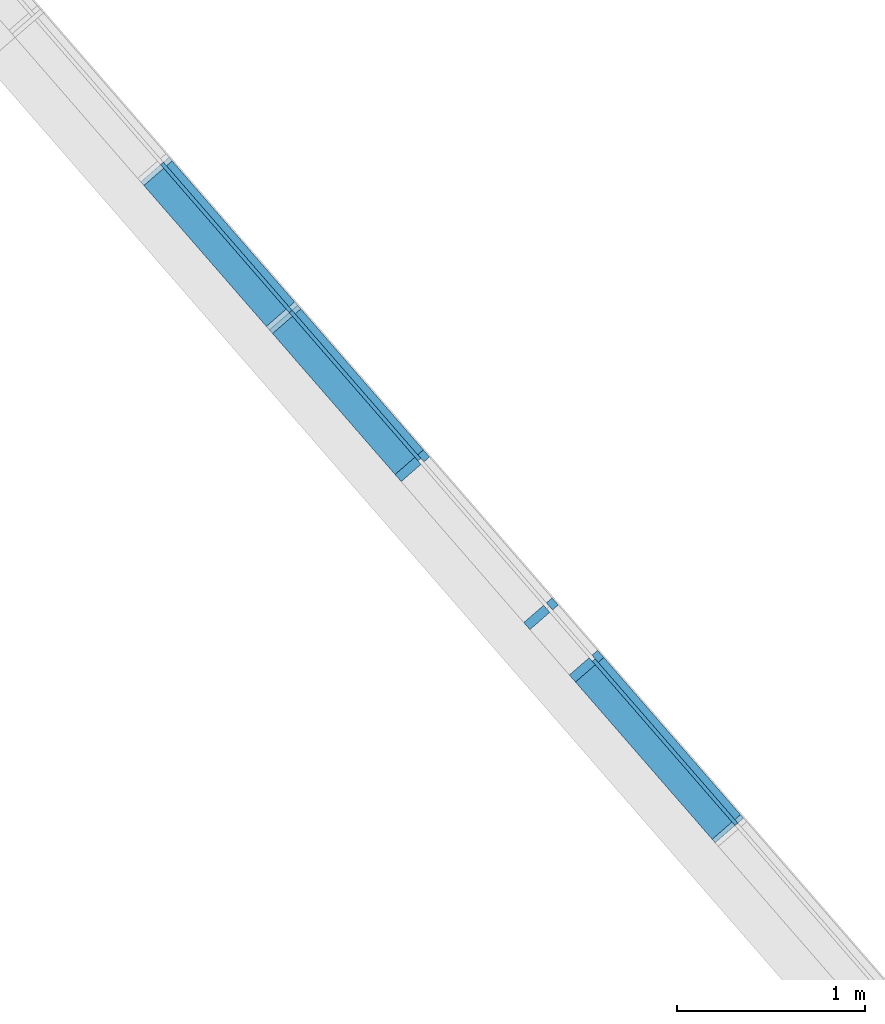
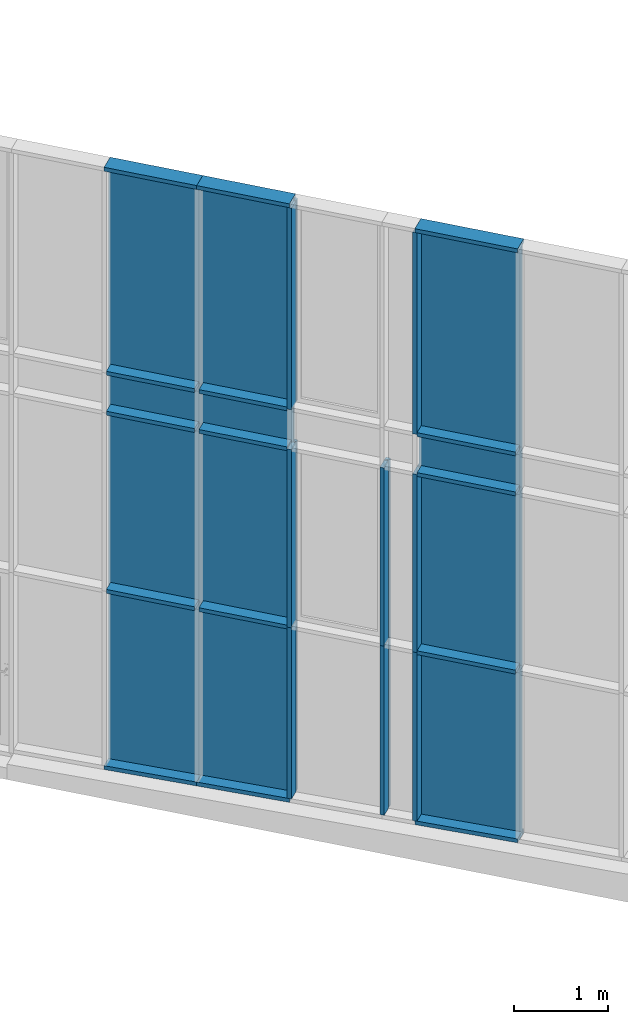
# One storey, part 51 of 390: 35 discrete accessories, 1 element without a shape of its own.
"""IFC2X3 building model written with IfcOpenShell, lengths in millimetres."""

import ifcopenshell
import ifcopenshell.guid

model = None  # the IFC model being written
_history = None  # IfcOwnerHistory: only IFC2X3 demands one
_inside = {}  # id of a spatial element -> (the spatial element, [elements in it])
_under = {}  # id of a project, library or spatial element -> (it, [spatial elements below it])
_declared = {}  # id of a project -> (the project, [libraries it declares])
_typed = {}  # id of a type object -> (the type object, [elements of that type])
_made_of = {}  # id of a material, layer set ... -> (it, [elements and type objects made of it])


def new_model(schema):
    """Start an empty IFC model of exactly this schema.

    Asked for "IFC4X3", IfcOpenShell would pick the latest addendum, in which some entities
    have other attributes; the version numbers below select the first issue.
    IFC2X3 requires an IfcOwnerHistory on every rooted entity: one is made here for all.
    """
    global model, _history
    if schema == "IFC4X3":
        model = ifcopenshell.file(schema_version=(4, 3, 0, 0))
    else:
        model = ifcopenshell.file(schema=schema)
    _inside.clear()
    _under.clear()
    _declared.clear()
    _typed.clear()
    _made_of.clear()
    _history = None
    if model.schema == "IFC2X3":
        org = make("IfcOrganization", Name="unknown")
        user = make(
            "IfcPersonAndOrganization",
            ThePerson=make("IfcPerson", FamilyName="unknown"),
            TheOrganization=org,
        )
        app = make(
            "IfcApplication",
            ApplicationDeveloper=org,
            Version="unknown",
            ApplicationFullName="unknown",
            ApplicationIdentifier="unknown",
        )
        _history = make(
            "IfcOwnerHistory",
            OwningUser=user,
            OwningApplication=app,
            ChangeAction="ADDED",
            CreationDate=0,
        )
    return model


def make(cls, **values):
    """One entity of the class cls with the attributes given. An attribute that is None is left unset."""
    return model.create_entity(
        cls, **{name: value for name, value in values.items() if value is not None}
    )


def entity(cls, *values):
    """Any entity or typed value of the class cls, its attributes in the order of the schema. None: left unset."""
    e = model.create_entity(cls)
    for i, value in enumerate(values):
        if value is not None:
            e[i] = value
    return e


def rooted(cls, **values):
    """An entity with a GlobalId (a new one), such as an element, a storey or a relation."""
    return make(cls, GlobalId=ifcopenshell.guid.new(), OwnerHistory=_history, **values)


def si_unit(unit_type, name, prefix=None):
    """IfcSIUnit, for example si_unit("LENGTHUNIT", "METRE", prefix="MILLI")."""
    return make("IfcSIUnit", UnitType=unit_type, Prefix=prefix, Name=name)


def converted_unit(unit_type, name, factor, base, dimensions=None, offset=None):
    """IfcConversionBasedUnit, such as the inch: factor (a typed value) times the base unit."""
    return make(
        "IfcConversionBasedUnit"
        if offset is None
        else "IfcConversionBasedUnitWithOffset",
        ConversionOffset=offset,
        Dimensions=None
        if dimensions is None
        else entity("IfcDimensionalExponents", *dimensions),
        UnitType=unit_type,
        Name=name,
        ConversionFactor=make(
            "IfcMeasureWithUnit", ValueComponent=factor, UnitComponent=base
        ),
    )


def derived_unit(unit_type, elements):
    """IfcDerivedUnit: a product of units, each with its exponent."""
    return make(
        "IfcDerivedUnit",
        Elements=[
            make("IfcDerivedUnitElement", Unit=unit, Exponent=power)
            for unit, power in elements
        ],
        UnitType=unit_type,
    )


def money_unit(currency):
    """IfcMonetaryUnit."""
    return make("IfcMonetaryUnit", Currency=currency)


def assignment(units):
    """IfcUnitAssignment: the units of a project."""
    return None if units is None else make("IfcUnitAssignment", Units=units)


def point(xyz):
    """IfcCartesianPoint."""
    return None if xyz is None else make("IfcCartesianPoint", Coordinates=xyz)


def direction(xyz):
    """IfcDirection."""
    return None if xyz is None else make("IfcDirection", DirectionRatios=xyz)


def frame(location, z_axis=None, x_axis=None):
    """IfcAxis2Placement3D, a coordinate frame: its origin and axes. An axis left out is left unset."""
    return make(
        "IfcAxis2Placement3D",
        Location=point(location),
        Axis=direction(z_axis),
        RefDirection=direction(x_axis),
    )


def origin_with_axes():
    """The frame at (0, 0, 0) with the z axis (0, 0, 1) and the x axis (1, 0, 0) written out."""
    return frame((0.0, 0.0, 0.0), z_axis=(0.0, 0.0, 1.0), x_axis=(1.0, 0.0, 0.0))


def place(relative_to, where):
    """IfcLocalPlacement: puts the frame where relative to a parent placement (None: the world)."""
    return make(
        "IfcLocalPlacement", PlacementRelTo=relative_to, RelativePlacement=where
    )


def context(
    kind, dimensions, precision=None, world=None, true_north=None, identifier=None
):
    """IfcGeometricRepresentationContext, for example the 3D "Model" context."""
    return make(
        "IfcGeometricRepresentationContext",
        ContextIdentifier=identifier,
        ContextType=kind,
        CoordinateSpaceDimension=dimensions,
        Precision=precision,
        WorldCoordinateSystem=world,
        TrueNorth=true_north,
    )


def subcontext(parent, identifier, kind, view, scale=None):
    """IfcGeometricRepresentationSubContext, for example "Body" below "Model"."""
    return make(
        "IfcGeometricRepresentationSubContext",
        ContextIdentifier=identifier,
        ContextType=kind,
        ParentContext=parent,
        TargetScale=scale,
        TargetView=view,
    )


def project(units=None, contexts=None):
    """IfcProject with its units and contexts."""
    return rooted(
        "IfcProject",
        Name="project",
        RepresentationContexts=contexts,
        UnitsInContext=assignment(units),
    )


def spatial(cls, under=None, at=None, **own):
    """A site, building, storey or space (cls), placed at a placement, below another one or the project."""
    s = rooted(cls, ObjectPlacement=at, **own)
    if under is not None:
        _under.setdefault(under.id(), (under, []))[1].append(s)
    return s


def polyline(points):
    """IfcPolyline through the points."""
    return make("IfcPolyline", Points=[point(p) for p in points])


def outline(outer, holes=None, kind="AREA"):
    """IfcArbitraryClosedProfileDef: a profile drawn as a closed curve; with holes, ...WithVoids."""
    if holes is None:
        return make("IfcArbitraryClosedProfileDef", ProfileType=kind, OuterCurve=outer)
    return make(
        "IfcArbitraryProfileDefWithVoids",
        ProfileType=kind,
        OuterCurve=outer,
        InnerCurves=holes,
    )


def extrude(swept, where, along, depth):
    """IfcExtrudedAreaSolid: the profile swept, set in the frame where, extruded along a direction by depth."""
    return make(
        "IfcExtrudedAreaSolid",
        SweptArea=swept,
        Position=where,
        ExtrudedDirection=direction(along),
        Depth=depth,
    )


def clip(a, b, op="DIFFERENCE"):
    """IfcBooleanClippingResult: the solid a cut by the half space b."""
    return make(
        "IfcBooleanClippingResult", Operator=op, FirstOperand=a, SecondOperand=b
    )


def halfspace(plane, agree):
    """IfcHalfSpaceSolid: all space on one side of the plane z = 0 of the frame plane."""
    return make(
        "IfcHalfSpaceSolid",
        BaseSurface=make("IfcPlane", Position=plane),
        AgreementFlag=agree,
    )


def shape(context_of_items, identifier, shape_type, items):
    """IfcShapeRepresentation: the items that make up one representation, for example the "Body"."""
    return make(
        "IfcShapeRepresentation",
        ContextOfItems=context_of_items,
        RepresentationIdentifier=identifier,
        RepresentationType=shape_type,
        Items=items,
    )


def material(Name=None, Category=None):
    """IfcMaterial."""
    return make("IfcMaterial", Name=Name, Category=Category)


def material_list(materials):
    """IfcMaterialList."""
    return make("IfcMaterialList", Materials=materials)


def made_of(thing, what):
    """Note that an element or type object is made of a material, layer set ...; save() writes the relation."""
    if what is not None:
        _made_of.setdefault(what.id(), (what, []))[1].append(thing)
    return thing


def type_object(cls, material=None, **own):
    """A type object (cls), such as IfcWallType, which elements share."""
    return made_of(rooted(cls, **own), material)


def element(
    cls,
    number,
    at=None,
    inside=None,
    cuts=None,
    type_object=None,
    material=None,
    context=None,
    identifier="Body",
    shape_type=None,
    held_by="IfcProductDefinitionShape",
    body=None,
    shapes=None,
    **own,
):
    """One element of the class cls, such as IfcWall. Its Tag is "e" and its number.

    at: its placement. inside: the storey or other place that contains it. cuts: it is an
    opening in that element (IfcRelVoidsElement). A single representation is given by context,
    identifier, shape_type and body (its items); several are given by shapes. held_by: the class
    of the entity that holds the representations. save() writes the other relations.
    """
    e = rooted(cls, Tag="e%d" % number, ObjectPlacement=at, **own)
    if body is not None:
        shapes = [shape(context, identifier, shape_type, body)]
    if shapes is not None:
        e.Representation = make(held_by, Representations=shapes)
    if inside is not None:
        _inside.setdefault(inside.id(), (inside, []))[1].append(e)
    if cuts is not None:
        rooted(
            "IfcRelVoidsElement", RelatingBuildingElement=cuts, RelatedOpeningElement=e
        )
    if type_object is not None:
        _typed.setdefault(type_object.id(), (type_object, []))[1].append(e)
    return made_of(e, material)


def aggregate(whole, parts):
    """IfcRelAggregates: a whole, such as a stair, and the parts it consists of."""
    return rooted("IfcRelAggregates", RelatingObject=whole, RelatedObjects=parts)


def save(model, path):
    """Write the relations noted so far, then the file.

    IfcRelAggregates (storeys below a building ...), IfcRelContainedInSpatialStructure (elements
    in a storey), IfcRelDefinesByType, IfcRelAssociatesMaterial and IfcRelDeclares: one each for
    every whole, place, type object, material and project.
    """
    for whole, parts in _under.values():
        aggregate(whole, parts)
    for where, things in _inside.values():
        rooted(
            "IfcRelContainedInSpatialStructure",
            RelatedElements=things,
            RelatingStructure=where,
        )
    for kind, things in _typed.values():
        rooted("IfcRelDefinesByType", RelatedObjects=things, RelatingType=kind)
    for what, things in _made_of.values():
        rooted("IfcRelAssociatesMaterial", RelatedObjects=things, RelatingMaterial=what)
    for by, libraries in _declared.values():
        rooted("IfcRelDeclares", RelatingContext=by, RelatedDefinitions=libraries)
    model.write(path)


model = new_model("IFC2X3")

# Units and contexts
model_context = context("Model", 3, precision=1e-05, world=origin_with_axes(), true_north=direction((0.0, 1.0)))
body_context = subcontext(model_context, "Body", "Model", "MODEL_VIEW")
ifc_project = project(units=[si_unit("LENGTHUNIT", "METRE", prefix="MILLI"), si_unit("AREAUNIT", "SQUARE_METRE"), si_unit("VOLUMEUNIT", "CUBIC_METRE"), converted_unit("PLANEANGLEUNIT", "DEGREE", entity("IfcPlaneAngleMeasure", 0.0174532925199), si_unit("PLANEANGLEUNIT", "RADIAN"), dimensions=[0, 0, 0, 0, 0, 0, 0]), si_unit("SOLIDANGLEUNIT", "STERADIAN"), money_unit("EUR"), converted_unit("TIMEUNIT", "Year", entity("IfcTimeMeasure", 31556926.0), si_unit("TIMEUNIT", "SECOND"), dimensions=[0, 0, 1, 0, 0, 0, 0]), si_unit("MASSUNIT", "GRAM", prefix="KILO"), si_unit("THERMODYNAMICTEMPERATUREUNIT", "DEGREE_CELSIUS"), si_unit("LUMINOUSINTENSITYUNIT", "LUMEN"), si_unit("ENERGYUNIT", "JOULE", prefix="MEGA"), derived_unit("THERMALCONDUCTANCEUNIT", [(si_unit("POWERUNIT", "WATT"), 1), (si_unit("LENGTHUNIT", "METRE"), -1), (si_unit("THERMODYNAMICTEMPERATUREUNIT", "KELVIN"), -1)]), derived_unit("SPECIFICHEATCAPACITYUNIT", [(si_unit("ENERGYUNIT", "JOULE"), 1), (si_unit("MASSUNIT", "GRAM", prefix="KILO"), -1), (si_unit("THERMODYNAMICTEMPERATUREUNIT", "KELVIN"), -1)]), derived_unit("MASSDENSITYUNIT", [(si_unit("MASSUNIT", "GRAM", prefix="KILO"), 1), (si_unit("VOLUMEUNIT", "CUBIC_METRE"), -1)])], contexts=[model_context])

# Site, building, storey
site_placement = place(None, origin_with_axes())
site = spatial("IfcSite", under=ifc_project, at=site_placement, Name="Site", CompositionType="ELEMENT")
building_placement = place(site_placement, origin_with_axes())
building = spatial("IfcBuilding", under=site, at=building_placement, Name="Building", CompositionType="ELEMENT")
storey_placement = place(building_placement, origin_with_axes())
storey = spatial("IfcBuildingStorey", under=building, at=storey_placement, Name="1 korrus", CompositionType="ELEMENT", Elevation=0.0)

# Curtain wall, discrete accessories
curtain_wall_type = type_object("IfcCurtainWallType", Name="KLF-17", PredefinedType="NOTDEFINED")
curtain_wall_placement = place(storey_placement, frame((175630.823927, 104534.758561, -0.000216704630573), z_axis=(0.0, 0.0, 1.0), x_axis=(1.0, 0.0, 0.0)))
curtain_wall = element("IfcCurtainWall", 1, at=curtain_wall_placement, inside=storey, type_object=curtain_wall_type, Name="Klaasfassaad")
ifc_material_1 = material(Name="Klaas")
discrete_accessory_type_1 = type_object("IfcDiscreteAccessoryType", Name="1045 x 2655 x 20")
discrete_accessory_1_placement = place(curtain_wall_placement, frame((-5817.60343956, 6692.38720263, 6577.50341211), z_axis=(0.0, 0.0, 1.0), x_axis=(-0.65605902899, 0.754709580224, 0.0)))
discrete_accessory_1 = element("IfcDiscreteAccessory", 2, at=discrete_accessory_1_placement, type_object=discrete_accessory_type_1, material=ifc_material_1, Name="KLF-17 klaaspakett", context=body_context, shape_type="SweptSolid", body=[
    extrude(outline(polyline([(-522.499998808, -1317.50318898), (522.499988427, -1317.50318898), (522.499988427, 1337.50319541), (-522.499998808, 1337.50319541), (-522.499998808, -1317.50318898)])), frame((0.0, -10.0, 0.0), z_axis=(0.0, 1.0, 0.0), x_axis=(1.0, 0.0, 0.0)), (0.0, 0.0, 1.0), 20.0),
])
discrete_accessory_2_placement = place(curtain_wall_placement, frame((-6503.18512486, 7481.05871397, 6577.50341211), z_axis=(0.0, 0.0, 1.0), x_axis=(-0.65605902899, 0.754709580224, 0.0)))
discrete_accessory_2 = element("IfcDiscreteAccessory", 3, at=discrete_accessory_2_placement, type_object=discrete_accessory_type_1, material=ifc_material_1, Name="KLF-17 klaaspakett", context=body_context, shape_type="SweptSolid", body=[
    extrude(outline(polyline([(-522.499998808, -1317.50318898), (522.499988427, -1317.50318898), (522.499988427, 1337.50319541), (-522.499998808, 1337.50319541), (-522.499998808, -1317.50318898)])), frame((0.0, -9.99999999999, 0.0), z_axis=(0.0, 1.0, 0.0), x_axis=(1.0, 0.0, 0.0)), (0.0, 0.0, 1.0), 20.0),
])
discrete_accessory_type_2 = type_object("IfcDiscreteAccessoryType", Name="1160 x 2655 x 20")
discrete_accessory_3_placement = place(curtain_wall_placement, frame((-4165.97483408, 4792.40583442, 6577.50341211), z_axis=(0.0, 0.0, 1.0), x_axis=(-0.65605902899, 0.754709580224, 0.0)))
discrete_accessory_3 = element("IfcDiscreteAccessory", 4, at=discrete_accessory_3_placement, type_object=discrete_accessory_type_2, material=ifc_material_1, Name="KLF-17 klaaspakett", context=body_context, shape_type="SweptSolid", body=[
    extrude(outline(polyline([(-580.000025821, -1317.50318898), (579.999988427, -1317.50318898), (579.999988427, 1337.50319541), (-579.99998596, 1337.50319541), (-580.000025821, -1317.50318898)])), frame((0.0, -9.99999999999, 0.0), z_axis=(0.0, 1.0, 0.0), x_axis=(1.0, 0.0, 0.0)), (0.0, 0.0, 1.0), 20.0),
])
discrete_accessory_type_3 = type_object("IfcDiscreteAccessoryType", Name="1160 x 2223 x 20")
discrete_accessory_4_placement = place(curtain_wall_placement, frame((-4165.97483408, 4792.40583442, 1285.15446625), z_axis=(0.0, 0.0, 1.0), x_axis=(-0.65605902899, 0.754709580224, 0.0)))
discrete_accessory_4 = element("IfcDiscreteAccessory", 5, at=discrete_accessory_4_placement, type_object=discrete_accessory_type_3, material=ifc_material_1, Name="KLF-17 klaaspakett", context=body_context, shape_type="SweptSolid", body=[
    extrude(outline(polyline([(-580.000009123, -1114.84575822), (580.000003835, -1114.84575822), (580.000003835, 1108.37641408), (-580.000009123, 1081.30413569), (-580.000009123, -1114.84575822)])), frame((0.0, -10.0, 0.0), z_axis=(0.0, 1.0, 0.0), x_axis=(1.0, 0.0, 0.0)), (0.0, 0.0, 1.0), 20.0),
])
discrete_accessory_type_4 = type_object("IfcDiscreteAccessoryType", Name="1045 x 2281 x 20")
discrete_accessory_5_placement = place(curtain_wall_placement, frame((-5817.60343956, 6692.38720263, 1255.77747598), z_axis=(0.0, 0.0, 1.0), x_axis=(-0.65605902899, 0.754709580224, 0.0)))
discrete_accessory_5 = element("IfcDiscreteAccessory", 6, at=discrete_accessory_5_placement, type_object=discrete_accessory_type_4, material=ifc_material_1, Name="KLF-17 klaaspakett", context=body_context, shape_type="SweptSolid", body=[
    extrude(outline(polyline([(-522.500013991, -1144.22274073), (522.499990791, -1144.22274073), (522.499990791, 1136.41152948), (-522.499979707, 1112.02304098), (-522.500013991, -1144.22274073)])), frame((0.0, -9.99999999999, 0.0), z_axis=(0.0, 1.0, 0.0), x_axis=(1.0, 0.0, 0.0)), (0.0, 0.0, 1.0), 20.0),
])
discrete_accessory_type_5 = type_object("IfcDiscreteAccessoryType", Name="1045 x 2305 x 20")
discrete_accessory_6_placement = place(curtain_wall_placement, frame((-6503.18512486, 7481.05871397, 1243.58322229), z_axis=(0.0, 0.0, 1.0), x_axis=(-0.65605902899, 0.754709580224, 0.0)))
discrete_accessory_6 = element("IfcDiscreteAccessory", 7, at=discrete_accessory_6_placement, type_object=discrete_accessory_type_5, material=ifc_material_1, Name="KLF-17 klaaspakett", context=body_context, shape_type="SweptSolid", body=[
    extrude(outline(polyline([(-522.500005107, -1156.41699441), (522.500000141, -1156.41699441), (522.500000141, 1148.60580802), (-522.500005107, 1124.21730055), (-522.500005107, -1156.41699441)])), frame((0.0, -9.99999999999, 0.0), z_axis=(0.0, 1.0, 0.0), x_axis=(1.0, 0.0, 0.0)), (0.0, 0.0, 1.0), 20.0),
])
discrete_accessory_type_6 = type_object("IfcDiscreteAccessoryType", Name="1160 x 2320 x 20")
discrete_accessory_7_placement = place(curtain_wall_placement, frame((-4165.97483408, 4792.40583442, 3560.0002167), z_axis=(0.0, 0.0, 1.0), x_axis=(-0.65605902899, 0.754709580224, 0.0)))
discrete_accessory_7 = element("IfcDiscreteAccessory", 8, at=discrete_accessory_7_placement, type_object=discrete_accessory_type_6, material=ifc_material_1, Name="KLF-17 klaaspakett", context=body_context, shape_type="SweptSolid", body=[
    extrude(outline(polyline([(-579.999998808, -1160.0), (580.000001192, -1160.0), (580.000001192, 1160.0), (-579.999998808, 1160.0), (-579.999998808, -1160.0)])), frame((0.0, -10.0, 0.0), z_axis=(0.0, 1.0, 0.0), x_axis=(1.0, 0.0, 0.0)), (0.0, 0.0, 1.0), 20.0),
])
discrete_accessory_type_7 = type_object("IfcDiscreteAccessoryType", Name="1045 x 2320 x 20")
discrete_accessory_8_placement = place(curtain_wall_placement, frame((-6503.18512486, 7481.05871397, 3560.0002167), z_axis=(0.0, 0.0, 1.0), x_axis=(-0.65605902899, 0.754709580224, 0.0)))
discrete_accessory_8 = element("IfcDiscreteAccessory", 9, at=discrete_accessory_8_placement, type_object=discrete_accessory_type_7, material=ifc_material_1, Name="KLF-17 klaaspakett", context=body_context, shape_type="SweptSolid", body=[
    extrude(outline(polyline([(-522.499991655, -1160.0), (522.500001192, -1160.0), (522.500001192, 1160.0), (-522.499991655, 1160.0), (-522.499991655, -1160.0)])), frame((0.0, -9.99999999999, 0.0), z_axis=(0.0, 1.0, 0.0), x_axis=(1.0, 0.0, 0.0)), (0.0, 0.0, 1.0), 20.0),
])
discrete_accessory_9_placement = place(curtain_wall_placement, frame((-5817.60343956, 6692.38720263, 3560.0002167), z_axis=(0.0, 0.0, 1.0), x_axis=(-0.65605902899, 0.754709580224, 0.0)))
discrete_accessory_9 = element("IfcDiscreteAccessory", 10, at=discrete_accessory_9_placement, type_object=discrete_accessory_type_7, material=ifc_material_1, Name="KLF-17 klaaspakett", context=body_context, shape_type="SweptSolid", body=[
    extrude(outline(polyline([(-522.499991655, -1160.0), (522.500001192, -1160.0), (522.500001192, 1160.0), (-522.499991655, 1160.0), (-522.499991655, -1160.0)])), frame((0.0, -9.99999999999, 0.0), z_axis=(0.0, 1.0, 0.0), x_axis=(1.0, 0.0, 0.0)), (0.0, 0.0, 1.0), 20.0),
])
discrete_accessory_type_8 = type_object("IfcDiscreteAccessoryType", Name="1160 x 520 x 20")
discrete_accessory_10_placement = place(curtain_wall_placement, frame((-4165.97483408, 4792.40583442, 4980.0002167), z_axis=(0.0, 0.0, 1.0), x_axis=(-0.65605902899, 0.754709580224, 0.0)))
discrete_accessory_10 = element("IfcDiscreteAccessory", 11, at=discrete_accessory_10_placement, type_object=discrete_accessory_type_8, material=ifc_material_1, Name="KLF-17 klaaspakett", context=body_context, shape_type="SweptSolid", body=[
    extrude(outline(polyline([(-580.0, -260.000007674), (579.999993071, -259.999990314), (579.999993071, 260.000001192), (-580.0, 260.000001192), (-580.0, -260.000007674)])), frame((0.0, -9.99999999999, 0.0), z_axis=(0.0, 1.0, 0.0), x_axis=(1.0, 0.0, 0.0)), (0.0, 0.0, 1.0), 20.0),
])
discrete_accessory_type_9 = type_object("IfcDiscreteAccessoryType", Name="1045 x 520 x 20")
discrete_accessory_11_placement = place(curtain_wall_placement, frame((-5817.60343956, 6692.38720263, 4980.0002167), z_axis=(0.0, 0.0, 1.0), x_axis=(-0.65605902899, 0.754709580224, 0.0)))
discrete_accessory_11 = element("IfcDiscreteAccessory", 12, at=discrete_accessory_11_placement, type_object=discrete_accessory_type_9, material=ifc_material_1, Name="KLF-17 klaaspakett", context=body_context, shape_type="SweptSolid", body=[
    extrude(outline(polyline([(-522.5, -259.99999553), (522.49999553, -259.99999553), (522.49999553, 260.0), (-522.5, 260.0), (-522.5, -259.99999553)])), frame((0.0, -9.99999999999, 0.0), z_axis=(0.0, 1.0, 0.0), x_axis=(1.0, 0.0, 0.0)), (0.0, 0.0, 1.0), 20.0),
])
discrete_accessory_12_placement = place(curtain_wall_placement, frame((-6503.18512486, 7481.05871397, 4980.0002167), z_axis=(0.0, 0.0, 1.0), x_axis=(-0.65605902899, 0.754709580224, 0.0)))
discrete_accessory_12 = element("IfcDiscreteAccessory", 13, at=discrete_accessory_12_placement, type_object=discrete_accessory_type_9, material=ifc_material_1, Name="KLF-17 klaaspakett", context=body_context, shape_type="SweptSolid", body=[
    extrude(outline(polyline([(-522.5, -259.99999553), (522.49999553, -259.99999553), (522.49999553, 260.0), (-522.5, 260.0), (-522.5, -259.99999553)])), frame((0.0, -9.99999999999, 0.0), z_axis=(0.0, 1.0, 0.0), x_axis=(1.0, 0.0, 0.0)), (0.0, 0.0, 1.0), 20.0),
])
ifc_material_2 = material(Name="Aluminium MUST")
ifc_material_list = material_list([ifc_material_2, ifc_material_2])
discrete_accessory_type_10 = type_object("IfcDiscreteAccessoryType", Name="50 x 200")
discrete_accessory_13_placement = place(curtain_wall_placement, frame((-5474.81259692, 6298.05144697, 5240.0002167), z_axis=(0.0, 0.0, 1.0), x_axis=(-0.65605902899, 0.754709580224, 0.0)))
discrete_accessory_13 = element("IfcDiscreteAccessory", 14, at=discrete_accessory_13_placement, type_object=discrete_accessory_type_10, material=ifc_material_list, Name="KLF-17 profiil", context=body_context, shape_type="SweptSolid", body=[
    extrude(outline(polyline([(-129.607912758, -79.5411148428), (-96.8049613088, -117.276593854), (8.8543799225, -25.4283297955), (-23.948571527, 12.3071492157), (-129.607912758, -79.5411148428)])), frame((0.0, 0.0, 0.0), z_axis=(0.0, 0.0, 1.0), x_axis=(-0.65605902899, -0.754709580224, 0.0)), (0.0, 0.0, 1.0), 2625.00639082),
    extrude(outline(polyline([(54.1369547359, 13.9352119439), (21.3340032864, 51.6706909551), (-8.8543799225, 25.4283297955), (23.948571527, -12.3071492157), (54.1369547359, 13.9352119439)])), frame((0.0, 0.0, 0.0), z_axis=(0.0, 0.0, 1.0), x_axis=(-0.65605902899, -0.754709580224, 0.0)), (0.0, 0.0, 1.0), 2625.00639082),
])
discrete_accessory_14_placement = place(curtain_wall_placement, frame((-4546.4890709, 5230.13739095, 7915.00660752), z_axis=(0.65605902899, -0.754709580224, 0.0), x_axis=(0.0, 0.0, 1.0)))
discrete_accessory_14 = element("IfcDiscreteAccessory", 15, at=discrete_accessory_14_placement, type_object=discrete_accessory_type_10, Name="KLF-17 profiil", context=body_context, shape_type="SweptSolid", body=[
    extrude(outline(polyline([(9.99999999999, 25.0), (-9.99999999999, 25.0), (-9.99999999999, 0.0), (9.99999999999, 0.0), (9.99999999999, 25.0)])), frame((0.0, 0.0, 0.0), z_axis=(0.0, 0.0, 1.0), x_axis=(0.0, 1.0, 0.0)), (0.0, 0.0, 1.0), 1160.0),
    extrude(outline(polyline([(150.0, 50.0), (9.99999999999, 50.0), (9.99999999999, 0.0), (150.0, 0.0), (150.0, 50.0)])), frame((0.0, 0.0, 0.0), z_axis=(0.0, 0.0, 1.0), x_axis=(0.0, 1.0, 0.0)), (0.0, 0.0, 1.0), 1160.0),
    extrude(outline(polyline([(-50.0, 0.0), (-9.99999999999, 0.0), (-9.99999999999, 50.0), (-50.0, 50.0), (-50.0, 0.0)])), frame((0.0, 0.0, 0.0), z_axis=(0.0, 0.0, 1.0), x_axis=(0.0, 1.0, 0.0)), (0.0, 0.0, 1.0), 1160.0),
])
discrete_accessory_15_placement = place(curtain_wall_placement, frame((-6160.39428221, 7086.7229583, 7915.00660752), z_axis=(0.65605902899, -0.754709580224, 0.0), x_axis=(0.0, 0.0, 1.0)))
discrete_accessory_15 = element("IfcDiscreteAccessory", 16, at=discrete_accessory_15_placement, type_object=discrete_accessory_type_10, Name="KLF-17 profiil", context=body_context, shape_type="SweptSolid", body=[
    extrude(outline(polyline([(10.0, 25.0), (-9.99999999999, 25.0), (-9.99999999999, 0.0), (10.0, 0.0), (10.0, 25.0)])), frame((0.0, 0.0, 0.0), z_axis=(0.0, 0.0, 1.0), x_axis=(0.0, 1.0, 0.0)), (0.0, 0.0, 1.0), 1045.0),
    extrude(outline(polyline([(150.0, 50.0), (10.0, 50.0), (10.0, 0.0), (150.0, 0.0), (150.0, 50.0)])), frame((0.0, 0.0, 0.0), z_axis=(0.0, 0.0, 1.0), x_axis=(0.0, 1.0, 0.0)), (0.0, 0.0, 1.0), 1045.0),
    extrude(outline(polyline([(-50.0, 0.0), (-9.99999999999, 0.0), (-9.99999999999, 50.0), (-50.0, 50.0), (-50.0, 0.0)])), frame((0.0, 0.0, 0.0), z_axis=(0.0, 0.0, 1.0), x_axis=(0.0, 1.0, 0.0)), (0.0, 0.0, 1.0), 1045.0),
])
discrete_accessory_16_placement = place(curtain_wall_placement, frame((-6845.97596751, 7875.39446963, 7915.00660752), z_axis=(0.65605902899, -0.754709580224, 0.0), x_axis=(0.0, 0.0, 1.0)))
discrete_accessory_16 = element("IfcDiscreteAccessory", 17, at=discrete_accessory_16_placement, type_object=discrete_accessory_type_10, Name="KLF-17 profiil", context=body_context, shape_type="SweptSolid", body=[
    extrude(outline(polyline([(10.0, 25.0), (-9.99999999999, 25.0), (-9.99999999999, 0.0), (10.0, 0.0), (10.0, 25.0)])), frame((0.0, 0.0, 0.0), z_axis=(0.0, 0.0, 1.0), x_axis=(0.0, 1.0, 0.0)), (0.0, 0.0, 1.0), 1045.0),
    extrude(outline(polyline([(150.0, 50.0), (10.0, 50.0), (10.0, 0.0), (150.0, 0.0), (150.0, 50.0)])), frame((0.0, 0.0, 0.0), z_axis=(0.0, 0.0, 1.0), x_axis=(0.0, 1.0, 0.0)), (0.0, 0.0, 1.0), 1045.0),
    extrude(outline(polyline([(-50.0, 0.0), (-9.99999999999, 0.0), (-9.99999999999, 50.0), (-50.0, 50.0), (-50.0, 0.0)])), frame((0.0, 0.0, 0.0), z_axis=(0.0, 0.0, 1.0), x_axis=(0.0, 1.0, 0.0)), (0.0, 0.0, 1.0), 1045.0),
])
discrete_accessory_17_placement = place(curtain_wall_placement, frame((-4546.4890709, 5230.13739095, 5240.0002167), z_axis=(0.65605902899, -0.754709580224, 0.0), x_axis=(0.0, 0.0, 1.0)))
discrete_accessory_17 = element("IfcDiscreteAccessory", 18, at=discrete_accessory_17_placement, type_object=discrete_accessory_type_10, material=ifc_material_list, Name="KLF-17 profiil", context=body_context, shape_type="SweptSolid", body=[
    extrude(outline(polyline([(150.0, -25.0), (150.0, 25.0), (9.99999999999, 25.0), (9.99999999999, -25.0), (150.0, -25.0)])), frame((0.0, 0.0, 25.0), z_axis=(0.0, 0.0, 1.0), x_axis=(0.0, 1.0, 0.0)), (0.0, 0.0, 1.0), 1110.0),
    extrude(outline(polyline([(-50.0, 25.0), (-50.0, -25.0), (-9.99999999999, -25.0), (-9.99999999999, 25.0), (-50.0, 25.0)])), frame((0.0, 0.0, 25.0), z_axis=(0.0, 0.0, 1.0), x_axis=(0.0, 1.0, 0.0)), (0.0, 0.0, 1.0), 1110.0),
])
discrete_accessory_18_placement = place(curtain_wall_placement, frame((-6160.39428221, 7086.7229583, 5240.0002167), z_axis=(0.65605902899, -0.754709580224, 0.0), x_axis=(0.0, 0.0, 1.0)))
discrete_accessory_18 = element("IfcDiscreteAccessory", 19, at=discrete_accessory_18_placement, type_object=discrete_accessory_type_10, material=ifc_material_list, Name="KLF-17 profiil", context=body_context, shape_type="SweptSolid", body=[
    extrude(outline(polyline([(150.0, -25.0), (150.0, 25.0), (9.99999999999, 25.0), (9.99999999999, -25.0), (150.0, -25.0)])), frame((0.0, 0.0, 25.0), z_axis=(0.0, 0.0, 1.0), x_axis=(0.0, 1.0, 0.0)), (0.0, 0.0, 1.0), 995.0),
    extrude(outline(polyline([(-49.9999999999, 25.0), (-49.9999999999, -25.0), (-9.99999999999, -25.0), (-9.99999999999, 25.0), (-49.9999999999, 25.0)])), frame((0.0, 0.0, 25.0), z_axis=(0.0, 0.0, 1.0), x_axis=(0.0, 1.0, 0.0)), (0.0, 0.0, 1.0), 995.0),
])
discrete_accessory_19_placement = place(curtain_wall_placement, frame((-6845.97596751, 7875.39446963, 5240.0002167), z_axis=(0.65605902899, -0.754709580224, 0.0), x_axis=(0.0, 0.0, 1.0)))
discrete_accessory_19 = element("IfcDiscreteAccessory", 20, at=discrete_accessory_19_placement, type_object=discrete_accessory_type_10, material=ifc_material_list, Name="KLF-17 profiil", context=body_context, shape_type="SweptSolid", body=[
    extrude(outline(polyline([(150.0, -25.0), (150.0, 25.0), (10.0, 25.0), (10.0, -25.0), (150.0, -25.0)])), frame((0.0, 0.0, 25.0), z_axis=(0.0, 0.0, 1.0), x_axis=(0.0, 1.0, 0.0)), (0.0, 0.0, 1.0), 995.0),
    extrude(outline(polyline([(-50.0, 25.0), (-50.0, -25.0), (-9.99999999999, -25.0), (-9.99999999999, 25.0), (-50.0, 25.0)])), frame((0.0, 0.0, 25.0), z_axis=(0.0, 0.0, 1.0), x_axis=(0.0, 1.0, 0.0)), (0.0, 0.0, 1.0), 995.0),
])
discrete_accessory_20_placement = place(curtain_wall_placement, frame((-4546.4890709, 5230.13739095, 5240.0002167), z_axis=(0.0, 0.0, 1.0), x_axis=(-0.65605902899, 0.754709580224, 0.0)))
discrete_accessory_20 = element("IfcDiscreteAccessory", 21, at=discrete_accessory_20_placement, type_object=discrete_accessory_type_10, material=ifc_material_list, Name="KLF-17 profiil", context=body_context, shape_type="SweptSolid", body=[
    extrude(outline(polyline([(-129.607912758, -79.5411148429), (-96.8049613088, -117.276593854), (8.85437992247, -25.4283297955), (-23.948571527, 12.3071492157), (-129.607912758, -79.5411148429)])), frame((0.0, 0.0, 0.0), z_axis=(0.0, 0.0, 1.0), x_axis=(-0.65605902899, -0.754709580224, 0.0)), (0.0, 0.0, 1.0), 2625.00639082),
    extrude(outline(polyline([(54.1369547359, 13.9352119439), (21.3340032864, 51.6706909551), (-8.85437992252, 25.4283297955), (23.948571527, -12.3071492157), (54.1369547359, 13.9352119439)])), frame((0.0, 0.0, 0.0), z_axis=(0.0, 0.0, 1.0), x_axis=(-0.65605902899, -0.754709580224, 0.0)), (0.0, 0.0, 1.0), 2625.00639082),
])
discrete_accessory_21_placement = place(curtain_wall_placement, frame((-4546.4890709, 5230.13739095, 156.772577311), z_axis=(0.655880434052, -0.754504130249, 0.0233318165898), x_axis=(-0.0153070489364, 0.0176087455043, 0.999727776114)))
discrete_accessory_21 = element("IfcDiscreteAccessory", 22, at=discrete_accessory_21_placement, type_object=discrete_accessory_type_10, Name="KLF-17 profiil", context=body_context, shape_type="SweptSolid", body=[
    extrude(outline(polyline([(9.99999999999, -25.0), (9.99999999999, 0.0), (-9.99999999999, 0.0), (-9.99999999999, -25.0), (9.99999999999, -25.0)])), frame((0.0, 0.0, -1.44142973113e-05), z_axis=(0.0, 0.0, 1.0), x_axis=(0.0, 1.0, 0.0)), (0.0, 0.0, 1.0), 1160.31588391),
    extrude(outline(polyline([(150.0, -50.0), (150.0, 0.0), (9.99999999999, 0.0), (9.99999999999, -50.0), (150.0, -50.0)])), frame((0.0, 0.0, -1.44142973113e-05), z_axis=(0.0, 0.0, 1.0), x_axis=(0.0, 1.0, 0.0)), (0.0, 0.0, 1.0), 1160.31588391),
    extrude(outline(polyline([(-50.0, 0.0), (-50.0, -50.0), (-10.0, -50.0), (-9.99999999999, 0.0), (-50.0, 0.0)])), frame((0.0, 0.0, -1.44142973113e-05), z_axis=(0.0, 0.0, 1.0), x_axis=(0.0, 1.0, 0.0)), (0.0, 0.0, 1.0), 1160.31588391),
])
discrete_accessory_22_placement = place(curtain_wall_placement, frame((-5474.81259692, 6298.05144697, 123.74898893), z_axis=(0.0, 0.0, 1.0), x_axis=(-0.65605902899, 0.754709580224, 0.0)))
discrete_accessory_22 = element("IfcDiscreteAccessory", 23, at=discrete_accessory_22_placement, type_object=discrete_accessory_type_10, material=ifc_material_list, Name="KLF-17 profiil", context=body_context, shape_type="Clipping", body=[
    clip(extrude(outline(polyline([(-129.607912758, -79.5411148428), (-96.8049613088, -117.276593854), (8.8543799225, -25.4283297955), (-23.948571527, 12.3071492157), (-129.607912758, -79.5411148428)])), frame((0.0, 0.0, 49.4301579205), z_axis=(0.0, 0.0, 1.0), x_axis=(-0.65605902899, -0.754709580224, 0.0)), (0.0, 0.0, 1.0), 2226.82106985), halfspace(frame((1.16659656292, 0.0, 49.9863886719), z_axis=(0.0233319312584, 0.0, 0.999727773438), x_axis=(0.0, -1.0, 0.0)), True)),
    clip(extrude(outline(polyline([(54.1369547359, 13.9352119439), (21.3340032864, 51.6706909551), (-8.8543799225, 25.4283297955), (23.948571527, -12.3071492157), (54.1369547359, 13.9352119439)])), frame((0.0, 0.0, 49.4301579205), z_axis=(0.0, 0.0, 1.0), x_axis=(-0.65605902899, -0.754709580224, 0.0)), (0.0, 0.0, 1.0), 2226.82106985), halfspace(frame((1.16659656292, 0.0, 49.9863886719), z_axis=(0.0233319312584, 0.0, 0.999727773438), x_axis=(0.0, -1.0, 0.0)), True)),
])
discrete_accessory_23_placement = place(curtain_wall_placement, frame((-4789.23091162, 5509.37993563, 148.137241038), z_axis=(0.0, 0.0, 1.0), x_axis=(-0.65605902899, 0.754709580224, 0.0)))
discrete_accessory_23 = element("IfcDiscreteAccessory", 24, at=discrete_accessory_23_placement, type_object=discrete_accessory_type_10, material=ifc_material_list, Name="KLF-17 profiil", context=body_context, shape_type="Clipping", body=[
    clip(extrude(outline(polyline([(-129.607912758, -79.5411148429), (-96.8049613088, -117.276593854), (8.8543799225, -25.4283297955), (-23.948571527, 12.3071492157), (-129.607912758, -79.5411148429)])), frame((0.0, 0.0, 49.4301637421), z_axis=(0.0, 0.0, 1.0), x_axis=(-0.65605902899, -0.754709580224, 0.0)), (0.0, 0.0, 1.0), 2202.43281192), halfspace(frame((1.16658435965, 0.0, 49.9863889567), z_axis=(0.023331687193, 0.0, 0.999727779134), x_axis=(0.0, -1.0, 0.0)), True)),
    clip(extrude(outline(polyline([(54.1369547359, 13.9352119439), (21.3340032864, 51.6706909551), (-8.8543799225, 25.4283297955), (23.948571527, -12.3071492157), (54.1369547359, 13.9352119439)])), frame((0.0, 0.0, 49.4301637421), z_axis=(0.0, 0.0, 1.0), x_axis=(-0.65605902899, -0.754709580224, 0.0)), (0.0, 0.0, 1.0), 2202.43281192), halfspace(frame((1.16658435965, 0.0, 49.9863889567), z_axis=(0.023331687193, 0.0, 0.999727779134), x_axis=(0.0, -1.0, 0.0)), True)),
])
discrete_accessory_24_placement = place(curtain_wall_placement, frame((-4546.4890709, 5230.13739095, 156.772577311), z_axis=(0.0, 0.0, 1.0), x_axis=(-0.65605902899, 0.754709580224, 0.0)))
discrete_accessory_24 = element("IfcDiscreteAccessory", 25, at=discrete_accessory_24_placement, type_object=discrete_accessory_type_10, material=ifc_material_list, Name="KLF-17 profiil", context=body_context, shape_type="Clipping", body=[
    clip(extrude(outline(polyline([(-129.607912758, -79.5411148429), (-96.8049613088, -117.276593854), (8.8543799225, -25.4283297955), (-23.948571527, 12.3071492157), (-129.607912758, -79.5411148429)])), frame((0.0, 0.0, 49.4301469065), z_axis=(0.0, 0.0, 1.0), x_axis=(-0.65605902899, -0.754709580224, 0.0)), (0.0, 0.0, 1.0), 2193.79749249), halfspace(frame((1.16661965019, 0.0, 49.9863881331), z_axis=(0.0233323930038, 0.0, 0.999727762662), x_axis=(0.0, -1.0, 0.0)), True)),
    clip(extrude(outline(polyline([(54.1369547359, 13.9352119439), (21.3340032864, 51.6706909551), (-8.8543799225, 25.4283297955), (23.9485715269, -12.3071492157), (54.1369547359, 13.9352119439)])), frame((0.0, 0.0, 49.4301469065), z_axis=(0.0, 0.0, 1.0), x_axis=(-0.65605902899, -0.754709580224, 0.0)), (0.0, 0.0, 1.0), 2193.79749249), halfspace(frame((1.16661965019, 0.0, 49.9863881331), z_axis=(0.0233323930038, 0.0, 0.999727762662), x_axis=(0.0, -1.0, 0.0)), True)),
])
discrete_accessory_25_placement = place(curtain_wall_placement, frame((-6160.39428221, 7086.7229583, 99.3604815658), z_axis=(0.655880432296, -0.754504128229, 0.0233319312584), x_axis=(-0.0153071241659, 0.0176088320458, 0.999727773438)))
discrete_accessory_25 = element("IfcDiscreteAccessory", 26, at=discrete_accessory_25_placement, type_object=discrete_accessory_type_10, Name="KLF-17 profiil", context=body_context, shape_type="SweptSolid", body=[
    extrude(outline(polyline([(9.99999999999, -25.0), (9.99999999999, 0.0), (-9.99999999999, 0.0), (-9.99999999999, -25.0), (9.99999999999, -25.0)])), frame((0.0, 0.0, 0.0), z_axis=(0.0, 0.0, 1.0), x_axis=(0.0, 1.0, 0.0)), (0.0, 0.0, 1.0), 1045.28456032),
    extrude(outline(polyline([(150.0, -50.0), (150.0, 0.0), (9.99999999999, 0.0), (10.0, -50.0), (150.0, -50.0)])), frame((0.0, 0.0, 0.0), z_axis=(0.0, 0.0, 1.0), x_axis=(0.0, 1.0, 0.0)), (0.0, 0.0, 1.0), 1045.28456032),
    extrude(outline(polyline([(-50.0, 0.0), (-50.0, -50.0), (-9.99999999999, -50.0), (-9.99999999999, 0.0), (-50.0, 0.0)])), frame((0.0, 0.0, 0.0), z_axis=(0.0, 0.0, 1.0), x_axis=(0.0, 1.0, 0.0)), (0.0, 0.0, 1.0), 1045.28456032),
])
discrete_accessory_26_placement = place(curtain_wall_placement, frame((-6845.97596751, 7875.39446963, 74.9719742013), z_axis=(0.655880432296, -0.754504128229, 0.0233319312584), x_axis=(-0.0153071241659, 0.0176088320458, 0.999727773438)))
discrete_accessory_26 = element("IfcDiscreteAccessory", 27, at=discrete_accessory_26_placement, type_object=discrete_accessory_type_10, Name="KLF-17 profiil", context=body_context, shape_type="SweptSolid", body=[
    extrude(outline(polyline([(9.99999999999, -25.0), (10.0, 0.0), (-9.99999999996, 0.0), (-9.99999999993, -25.0), (9.99999999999, -25.0)])), frame((0.0, 0.0, -1.4178347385e-06), z_axis=(0.0, 0.0, 1.0), x_axis=(0.0, 1.0, 0.0)), (0.0, 0.0, 1.0), 1045.28455564),
    extrude(outline(polyline([(150.0, -50.0), (150.0, 0.0), (10.0, 0.0), (10.0, -50.0), (150.0, -50.0)])), frame((0.0, 0.0, -1.41779210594e-06), z_axis=(0.0, 0.0, 1.0), x_axis=(0.0, 1.0, 0.0)), (0.0, 0.0, 1.0), 1045.28455564),
    extrude(outline(polyline([(-50.0, 0.0), (-50.0, -50.0), (-9.99999999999, -50.0), (-9.99999999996, 0.0), (-50.0, 0.0)])), frame((0.0, 0.0, -1.4178347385e-06), z_axis=(0.0, 0.0, 1.0), x_axis=(0.0, 1.0, 0.0)), (0.0, 0.0, 1.0), 1045.28455564),
])
discrete_accessory_27_placement = place(curtain_wall_placement, frame((-4546.4890709, 5230.13739095, 2400.0002167), z_axis=(0.65605902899, -0.754709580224, 0.0), x_axis=(0.0, 0.0, 1.0)))
discrete_accessory_27 = element("IfcDiscreteAccessory", 28, at=discrete_accessory_27_placement, type_object=discrete_accessory_type_10, material=ifc_material_list, Name="KLF-17 profiil", context=body_context, shape_type="SweptSolid", body=[
    extrude(outline(polyline([(150.0, -25.0), (150.0, 25.0), (9.99999999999, 25.0), (9.99999999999, -25.0), (150.0, -25.0)])), frame((0.0, 0.0, 25.0), z_axis=(0.0, 0.0, 1.0), x_axis=(0.0, 1.0, 0.0)), (0.0, 0.0, 1.0), 1110.0),
    extrude(outline(polyline([(-50.0, 25.0), (-50.0, -25.0), (-9.99999999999, -25.0), (-9.99999999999, 25.0), (-50.0, 25.0)])), frame((0.0, 0.0, 25.0), z_axis=(0.0, 0.0, 1.0), x_axis=(0.0, 1.0, 0.0)), (0.0, 0.0, 1.0), 1110.0),
])
discrete_accessory_28_placement = place(curtain_wall_placement, frame((-4546.4890709, 5230.13739095, 4720.0002167), z_axis=(0.65605902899, -0.754709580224, 0.0), x_axis=(0.0, 0.0, 1.0)))
discrete_accessory_28 = element("IfcDiscreteAccessory", 29, at=discrete_accessory_28_placement, type_object=discrete_accessory_type_10, material=ifc_material_list, Name="KLF-17 profiil", context=body_context, shape_type="SweptSolid", body=[
    extrude(outline(polyline([(150.0, -25.0), (150.0, 25.0), (9.99999999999, 25.0), (9.99999999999, -25.0), (150.0, -25.0)])), frame((0.0, 0.0, 25.0), z_axis=(0.0, 0.0, 1.0), x_axis=(0.0, 1.0, 0.0)), (0.0, 0.0, 1.0), 1110.0),
    extrude(outline(polyline([(-50.0, 25.0), (-50.0, -25.0), (-9.99999999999, -25.0), (-9.99999999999, 25.0), (-50.0, 25.0)])), frame((0.0, 0.0, 25.0), z_axis=(0.0, 0.0, 1.0), x_axis=(0.0, 1.0, 0.0)), (0.0, 0.0, 1.0), 1110.0),
])
discrete_accessory_29_placement = place(curtain_wall_placement, frame((-6160.39428221, 7086.7229583, 4720.0002167), z_axis=(0.65605902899, -0.754709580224, 0.0), x_axis=(0.0, 0.0, 1.0)))
discrete_accessory_29 = element("IfcDiscreteAccessory", 30, at=discrete_accessory_29_placement, type_object=discrete_accessory_type_10, material=ifc_material_list, Name="KLF-17 profiil", context=body_context, shape_type="SweptSolid", body=[
    extrude(outline(polyline([(150.0, -25.0), (150.0, 25.0), (9.99999999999, 25.0), (9.99999999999, -25.0), (150.0, -25.0)])), frame((0.0, 0.0, 25.0), z_axis=(0.0, 0.0, 1.0), x_axis=(0.0, 1.0, 0.0)), (0.0, 0.0, 1.0), 995.0),
    extrude(outline(polyline([(-49.9999999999, 25.0), (-49.9999999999, -25.0), (-9.99999999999, -25.0), (-9.99999999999, 25.0), (-49.9999999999, 25.0)])), frame((0.0, 0.0, 25.0), z_axis=(0.0, 0.0, 1.0), x_axis=(0.0, 1.0, 0.0)), (0.0, 0.0, 1.0), 995.0),
])
discrete_accessory_30_placement = place(curtain_wall_placement, frame((-6845.97596751, 7875.39446963, 4720.0002167), z_axis=(0.65605902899, -0.754709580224, 0.0), x_axis=(0.0, 0.0, 1.0)))
discrete_accessory_30 = element("IfcDiscreteAccessory", 31, at=discrete_accessory_30_placement, type_object=discrete_accessory_type_10, material=ifc_material_list, Name="KLF-17 profiil", context=body_context, shape_type="SweptSolid", body=[
    extrude(outline(polyline([(150.0, -25.0), (150.0, 25.0), (10.0, 25.0), (10.0, -25.0), (150.0, -25.0)])), frame((0.0, 0.0, 25.0), z_axis=(0.0, 0.0, 1.0), x_axis=(0.0, 1.0, 0.0)), (0.0, 0.0, 1.0), 995.0),
    extrude(outline(polyline([(-50.0, 25.0), (-50.0, -25.0), (-9.99999999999, -25.0), (-9.99999999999, 25.0), (-50.0, 25.0)])), frame((0.0, 0.0, 25.0), z_axis=(0.0, 0.0, 1.0), x_axis=(0.0, 1.0, 0.0)), (0.0, 0.0, 1.0), 995.0),
])
discrete_accessory_31_placement = place(curtain_wall_placement, frame((-5474.81259692, 6298.05144697, 2400.0002167), z_axis=(0.0, 0.0, 1.0), x_axis=(-0.65605902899, 0.754709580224, 0.0)))
discrete_accessory_31 = element("IfcDiscreteAccessory", 32, at=discrete_accessory_31_placement, type_object=discrete_accessory_type_10, material=ifc_material_list, Name="KLF-17 profiil", context=body_context, shape_type="SweptSolid", body=[
    extrude(outline(polyline([(-129.607912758, -79.5411148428), (-96.8049613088, -117.276593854), (8.8543799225, -25.4283297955), (-23.948571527, 12.3071492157), (-129.607912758, -79.5411148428)])), frame((0.0, 0.0, 0.0), z_axis=(0.0, 0.0, 1.0), x_axis=(-0.65605902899, -0.754709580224, 0.0)), (0.0, 0.0, 1.0), 2320.0),
    extrude(outline(polyline([(54.1369547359, 13.9352119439), (21.3340032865, 51.6706909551), (-8.8543799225, 25.4283297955), (23.948571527, -12.3071492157), (54.1369547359, 13.9352119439)])), frame((0.0, 0.0, 0.0), z_axis=(0.0, 0.0, 1.0), x_axis=(-0.65605902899, -0.754709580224, 0.0)), (0.0, 0.0, 1.0), 2320.0),
])
discrete_accessory_32_placement = place(curtain_wall_placement, frame((-4789.23091162, 5509.37993563, 2400.0002167), z_axis=(0.0, 0.0, 1.0), x_axis=(-0.65605902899, 0.754709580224, 0.0)))
discrete_accessory_32 = element("IfcDiscreteAccessory", 33, at=discrete_accessory_32_placement, type_object=discrete_accessory_type_10, material=ifc_material_list, Name="KLF-17 profiil", context=body_context, shape_type="SweptSolid", body=[
    extrude(outline(polyline([(-129.607912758, -79.5411148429), (-96.8049613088, -117.276593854), (8.8543799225, -25.4283297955), (-23.948571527, 12.3071492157), (-129.607912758, -79.5411148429)])), frame((0.0, 0.0, 0.0), z_axis=(0.0, 0.0, 1.0), x_axis=(-0.65605902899, -0.754709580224, 0.0)), (0.0, 0.0, 1.0), 2320.0),
    extrude(outline(polyline([(54.1369547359, 13.9352119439), (21.3340032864, 51.6706909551), (-8.8543799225, 25.4283297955), (23.948571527, -12.3071492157), (54.1369547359, 13.9352119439)])), frame((0.0, 0.0, 0.0), z_axis=(0.0, 0.0, 1.0), x_axis=(-0.65605902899, -0.754709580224, 0.0)), (0.0, 0.0, 1.0), 2320.0),
])
discrete_accessory_33_placement = place(curtain_wall_placement, frame((-6845.97596751, 7875.39446963, 2400.0002167), z_axis=(0.65605902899, -0.754709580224, 0.0), x_axis=(0.0, 0.0, 1.0)))
discrete_accessory_33 = element("IfcDiscreteAccessory", 34, at=discrete_accessory_33_placement, type_object=discrete_accessory_type_10, material=ifc_material_list, Name="KLF-17 profiil", context=body_context, shape_type="SweptSolid", body=[
    extrude(outline(polyline([(150.0, -25.0), (150.0, 25.0), (10.0, 25.0), (10.0, -25.0), (150.0, -25.0)])), frame((0.0, 0.0, 25.0), z_axis=(0.0, 0.0, 1.0), x_axis=(0.0, 1.0, 0.0)), (0.0, 0.0, 1.0), 995.0),
    extrude(outline(polyline([(-50.0, 25.0), (-50.0, -25.0), (-9.99999999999, -25.0), (-9.99999999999, 25.0), (-50.0, 25.0)])), frame((0.0, 0.0, 25.0), z_axis=(0.0, 0.0, 1.0), x_axis=(0.0, 1.0, 0.0)), (0.0, 0.0, 1.0), 995.0),
])
discrete_accessory_34_placement = place(curtain_wall_placement, frame((-4546.4890709, 5230.13739095, 2400.0002167), z_axis=(0.0, 0.0, 1.0), x_axis=(-0.65605902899, 0.754709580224, 0.0)))
discrete_accessory_34 = element("IfcDiscreteAccessory", 35, at=discrete_accessory_34_placement, type_object=discrete_accessory_type_10, material=ifc_material_list, Name="KLF-17 profiil", context=body_context, shape_type="SweptSolid", body=[
    extrude(outline(polyline([(-129.607912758, -79.5411148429), (-96.8049613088, -117.276593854), (8.85437992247, -25.4283297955), (-23.948571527, 12.3071492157), (-129.607912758, -79.5411148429)])), frame((0.0, 0.0, 0.0), z_axis=(0.0, 0.0, 1.0), x_axis=(-0.65605902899, -0.754709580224, 0.0)), (0.0, 0.0, 1.0), 2320.0),
    extrude(outline(polyline([(54.1369547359, 13.9352119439), (21.3340032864, 51.6706909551), (-8.85437992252, 25.4283297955), (23.948571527, -12.3071492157), (54.1369547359, 13.9352119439)])), frame((0.0, 0.0, 0.0), z_axis=(0.0, 0.0, 1.0), x_axis=(-0.65605902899, -0.754709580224, 0.0)), (0.0, 0.0, 1.0), 2320.0),
])
discrete_accessory_35_placement = place(curtain_wall_placement, frame((-6160.39428221, 7086.7229583, 2400.0002167), z_axis=(0.65605902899, -0.754709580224, 0.0), x_axis=(0.0, 0.0, 1.0)))
discrete_accessory_35 = element("IfcDiscreteAccessory", 36, at=discrete_accessory_35_placement, type_object=discrete_accessory_type_10, material=ifc_material_list, Name="KLF-17 profiil", context=body_context, shape_type="SweptSolid", body=[
    extrude(outline(polyline([(150.0, -25.0), (150.0, 25.0), (9.99999999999, 25.0), (9.99999999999, -25.0), (150.0, -25.0)])), frame((0.0, 0.0, 25.0), z_axis=(0.0, 0.0, 1.0), x_axis=(0.0, 1.0, 0.0)), (0.0, 0.0, 1.0), 995.0),
    extrude(outline(polyline([(-49.9999999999, 25.0), (-49.9999999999, -25.0), (-9.99999999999, -25.0), (-9.99999999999, 25.0), (-49.9999999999, 25.0)])), frame((0.0, 0.0, 25.0), z_axis=(0.0, 0.0, 1.0), x_axis=(0.0, 1.0, 0.0)), (0.0, 0.0, 1.0), 995.0),
])
aggregate(curtain_wall, [discrete_accessory_1, discrete_accessory_2, discrete_accessory_3, discrete_accessory_4, discrete_accessory_5, discrete_accessory_6, discrete_accessory_7, discrete_accessory_8, discrete_accessory_9, discrete_accessory_10, discrete_accessory_11, discrete_accessory_12, discrete_accessory_13, discrete_accessory_14, discrete_accessory_15, discrete_accessory_16, discrete_accessory_17, discrete_accessory_18, discrete_accessory_19, discrete_accessory_20, discrete_accessory_21, discrete_accessory_22, discrete_accessory_23, discrete_accessory_24, discrete_accessory_25, discrete_accessory_26, discrete_accessory_27, discrete_accessory_28, discrete_accessory_29, discrete_accessory_30, discrete_accessory_31, discrete_accessory_32, discrete_accessory_33, discrete_accessory_34, discrete_accessory_35])

save(model, "model.ifc")
